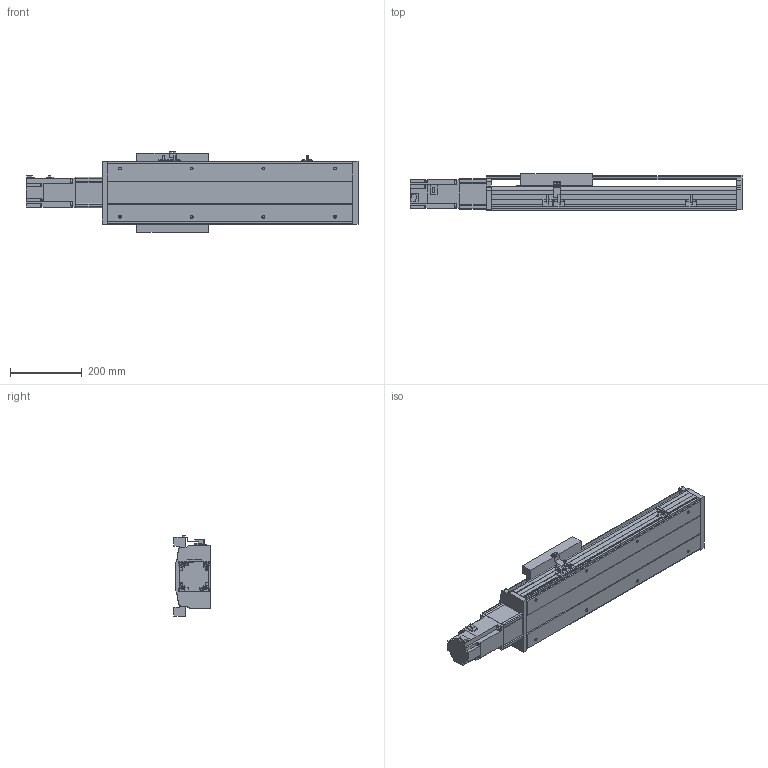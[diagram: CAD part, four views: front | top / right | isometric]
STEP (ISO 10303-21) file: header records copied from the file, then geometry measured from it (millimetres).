
FILE_DESCRIPTION( ( 'STEP AP214' ), '1' );
FILE_NAME( 'x:/temp/worker_27/temp/exporttempdir_6708_404_4TPdB/format_0/PSS200-L10-S350-BC-T75-C1-N(0).stp', '2022-06-06T02:33:53', ( 'License CC BY-ND 4.0' ), ( 'CADENAS' ), ' ', 'PARTsolutions', ' ' );
FILE_SCHEMA( ( 'AUTOMOTIVE_DESIGN { 1 0 10303 214 1 1 1 1 }' ) );
Length unit declared in the file: millimetre
Products named in the file (8): PSS200-L10-S350-BC-T75-C1-N(0); _PSS200-S350-BC-C1-N_body; _PSS200-N_Q; _PSS200-BC-C1-N_sl; _PSS200-N_sensor; _PSS200BC-N_h; _T75-p1; _PSS200-S350-BC-N_S
Assembly tree (9 placements, depth 2):
  PSS200-L10-S350-BC-T75-C1-N(0)
    _PSS200-S350-BC-C1-N_body
    _PSS200-N_Q
    _PSS200-BC-C1-N_sl
    _PSS200-N_sensor  x3
    _PSS200BC-N_h
    _T75-p1
    _PSS200-S350-BC-N_S
Bounding box: 926.3 x 101.5 x 223.86 mm (x, y, z)
Volume: 5703249.8 mm3; surface area: 1310558.1 mm2
Topology: 9 solids, 9 shells, 569 faces, 1519 edges, 1008 vertices
Faces by surface type: plane 439, cylinder 114, cone 16
Full cylindrical faces by diameter (mm): 4 x2, 4.5 x4, 6 x11, 6.647 x12, 8 x8, 10 x6, 25 x1, 67 x1, 70 x1
Entity records: 19951 total; most frequent: CARTESIAN_POINT 2792, ORIENTED_EDGE 2606, DIRECTION 2601, EDGE_CURVE 1303, LINE 1051, VECTOR 1051, VERTEX_POINT 902, AXIS2_PLACEMENT_3D 775
